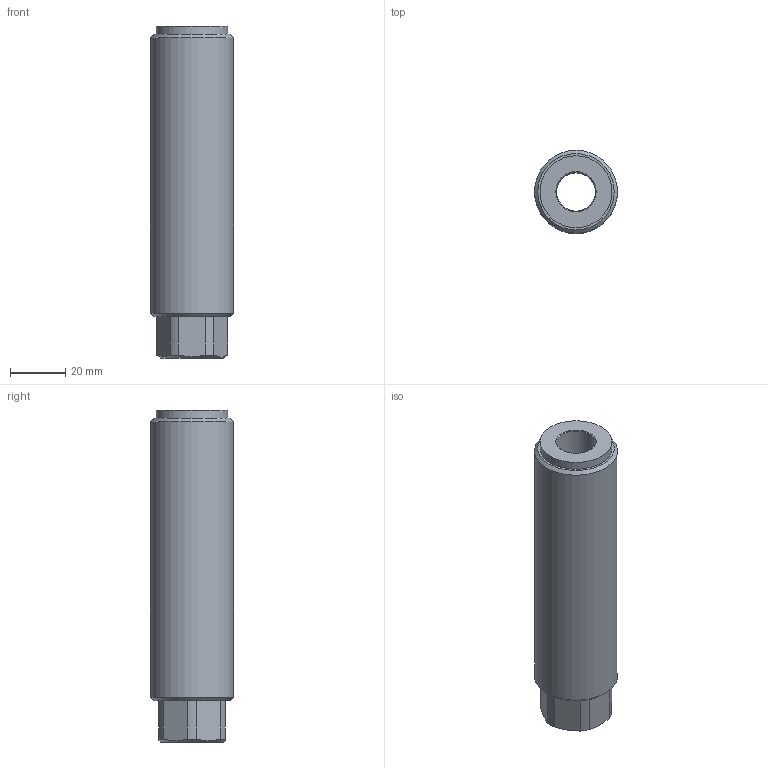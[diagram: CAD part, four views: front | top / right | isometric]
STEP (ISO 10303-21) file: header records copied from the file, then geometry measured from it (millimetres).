
FILE_DESCRIPTION(/* description */ ('HS-M30x1,5x120'),/* implementation_level */ '2;1');
FILE_NAME(/* name */ 'C:\Users\Public\Documents\Autodesk\Inventor LT 2016\Workspace\Hohlschraube\HS-M30x15x120.stp',/* time_stamp */ '2017-09-12T09:05:14+02:00',/* author */ ('T. Rey'),/* organization */ ('Schwaderer GmbH Robert-Bosch-Straße 10 71563 Affalterbach'),/* preprocessor_version */ 'ST-DEVELOPER v16.1',/* originating_system */ 'Autodesk Inventor LT ',/* authorisation */ '');
FILE_SCHEMA (('CONFIG_CONTROL_DESIGN'));
Length unit declared in the file: millimetre
Products named in the file (1): HS
Bounding box: 30 x 30 x 120 mm (x, y, z)
Volume: 62381.1 mm3; surface area: 17366.5 mm2
Topology: 1 solids, 1 shells, 229 faces, 614 edges, 408 vertices
Faces by surface type: plane 119, bspline 96, cylinder 9, cone 5
Full cylindrical faces by diameter (mm): 14 x1, 26 x1, 30 x1
Entity records: 7769 total; most frequent: CARTESIAN_POINT 2682, ORIENTED_EDGE 1210, DIRECTION 698, EDGE_CURVE 605, VERTEX_POINT 407, LINE 384, VECTOR 384, EDGE_LOOP 260
